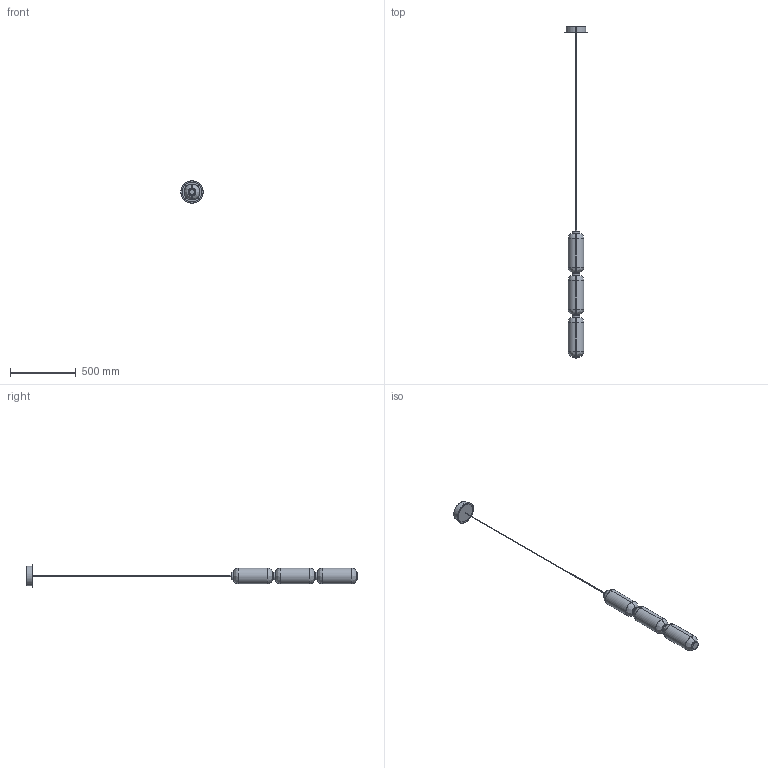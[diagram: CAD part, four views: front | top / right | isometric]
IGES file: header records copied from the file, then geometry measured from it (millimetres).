
Start section: SolidWorks IGES file using analytic representation for surfaces
Global section: file name: C:\Users\adrian\Desktop\MODELADOS USA\ELMA\CU1312L\ELMA_CU1312-L.IGS; native system: SolidWorks 2023; preprocessor: SolidWorks 2023; author: adrian; date: 260605.100802; units: inch
Bounding box: 169.93 x 2527.58 x 169.93 mm (x, y, z)
Surface area: 860653.2 mm2 (no closed solid volume)
Topology: 0 solids, 0 shells, 101 faces, 1968 edges, 1968 vertices
Faces by surface type: bspline 61, revolution 40
